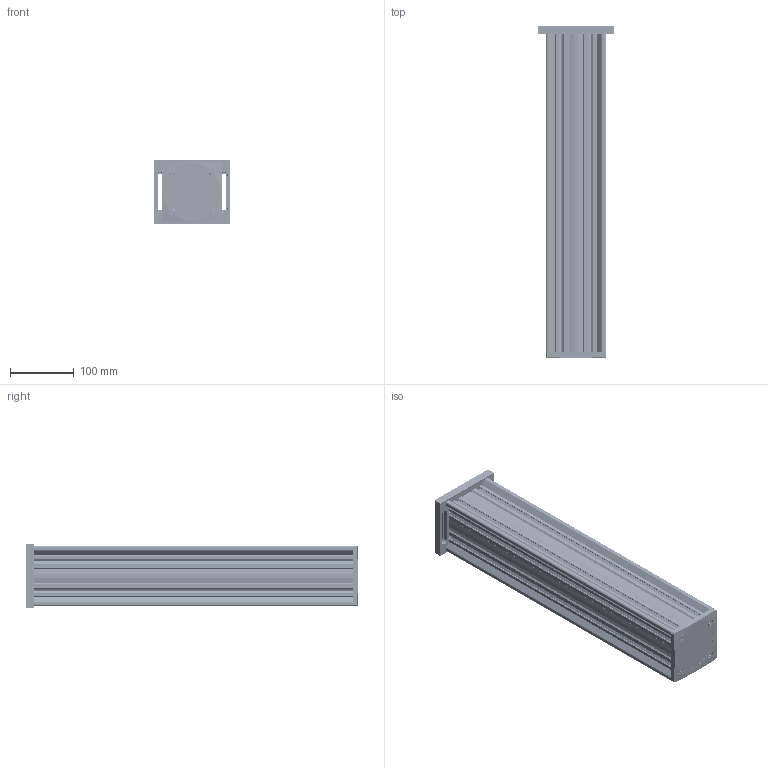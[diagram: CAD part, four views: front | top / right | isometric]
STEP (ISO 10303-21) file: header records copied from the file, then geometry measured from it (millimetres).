
FILE_DESCRIPTION((''),'2;1');
FILE_NAME('OPH95-500V_ASM','2023-12-02T15:22:30',('R&D'),(''),'CREO PARAMETRIC BY PTC INC, 2021063','CREO PARAMETRIC BY PTC INC, 2021063','');
FILE_SCHEMA(('CONFIG_CONTROL_DESIGN'));
Products named in the file (5): OPH95-500; OPS95-MO; OPH95-ML; ISO4762-M6X10-8_8; OPH95-500V_ASM
Assembly tree (11 placements, depth 2):
  OPH95-500V_ASM
    OPH95-500
    OPS95-MO
    OPH95-ML
    ISO4762-M6X10-8_8  x8
Bounding box: 119 x 521 x 101.5 mm (x, y, z)
Volume: 1418950.5 mm3; surface area: 599523.4 mm2
Topology: 11 solids, 52 shells, 2366 faces, 6496 edges, 4216 vertices
Faces by surface type: cylinder 1282, bspline 540, plane 418, cone 110, torus 16
Entity records: 203033 total; most frequent: CARTESIAN_POINT 153076, ORIENTED_EDGE 12212, DIRECTION 7202, EDGE_CURVE 6174, VERTEX_POINT 4006, B_SPLINE_CURVE_WITH_KNOTS 2982, VECTOR 2584, LINE 2584
